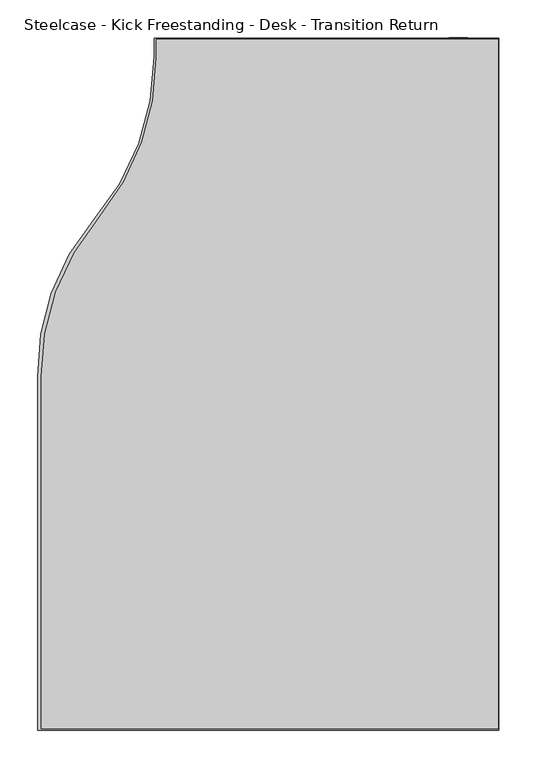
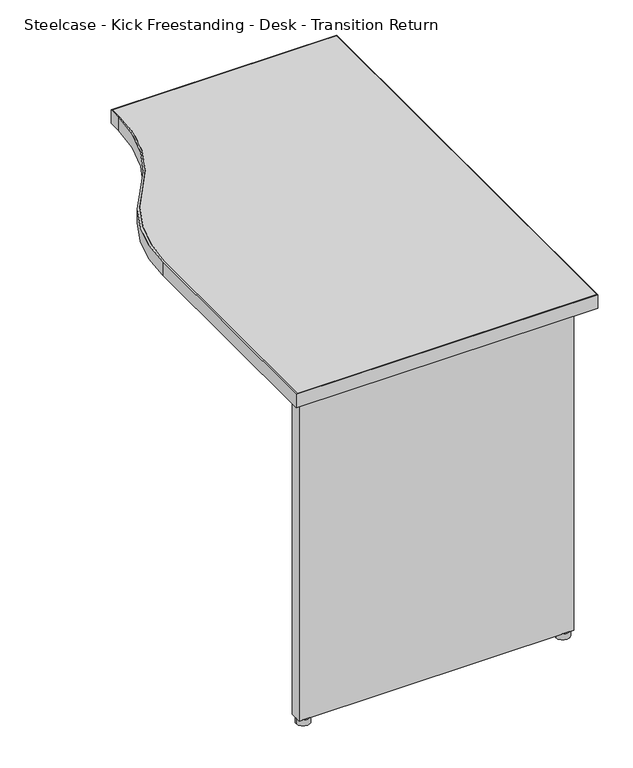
"""IFC4 building model written with IfcOpenShell, lengths in millimetres: furniture geometry, Steelcase - Kick Freestanding - Desk - Transition Return : 18D x 36W - Right - Half Panel."""

from ifc_helpers import new_model, si_unit, point, frame, frame_2d, origin, origin_with_axes, place, context, project, spatial, polyline, circle_curve, trimmed, segment, composite_curve, outline, extrude, source, transform, mapped, element, save


def steelcase_kick_freestanding_desk_transition_return_512f66e3(model_context):
    return source(origin(), model_context, "Body", "SweptSolid", [
        extrude(outline(composite_curve([segment(polyline([(1707.9294594, -546.8145152), (2163.8594425, -546.8145152), (2163.8594425, -1461.2145152), (1554.2594425, -1461.2145152), (1554.2594425, -994.1085152)]), True, "CONTINUOUS"), segment(trimmed(circle_curve(frame_2d((1864.0239413, -987.7058619)), 309.8306613), [point((1554.2594425, -994.1085152))], [point((1628.457587, -786.4509703))], False, "CARTESIAN"), True, "CONTINUOUS"), segment(trimmed(circle_curve(frame_2d((1376.3728371, -571.0836731)), 331.5566223), [point((1628.457587, -786.4509703))], [point((1707.9294594, -571.0836731))], True, "CARTESIAN"), True, "CONTINUOUS"), segment(polyline([(1707.9294594, -571.0836731), (1707.9294594, -546.8145152)]), True, "CONTINUOUS")], self_intersect=False), holes=[composite_curve([segment(polyline([(1710.9012257, -547.8051152), (1710.9012257, -572.1320079)]), True, "CONTINUOUS"), segment(trimmed(circle_curve(frame_2d((1386.0725345, -574.5942763)), 324.8380233), [point((1710.9012257, -572.1320079))], [point((1635.1600947, -783.1011797))], False, "CARTESIAN"), True, "CONTINUOUS"), segment(trimmed(circle_curve(frame_2d((1887.2347336, -994.1085152)), 328.7335079), [point((1635.1600947, -783.1011797))], [point((1558.5012257, -994.1085152))], True, "CARTESIAN"), True, "CONTINUOUS"), segment(polyline([(1558.5012257, -994.1085152), (1558.5012257, -1459.4619332), (2162.8688425, -1459.4619332), (2162.8688425, -547.8051152), (1710.9012257, -547.8051152)]), True, "CONTINUOUS")], self_intersect=False)]), frame((0.0, 0.0, 694.944), z_axis=(0.0, 0.0, 1.0), x_axis=(1.0, 0.0, 0.0)), (0.0, 0.0, 1.0), 28.956),
        extrude(outline(composite_curve([segment(polyline([(2162.8688425, -547.8051152), (2162.8688425, -1459.4619332), (1558.5012257, -1459.4619332), (1558.5012257, -994.1085152)]), True, "CONTINUOUS"), segment(trimmed(circle_curve(frame_2d((1887.2347336, -994.1085152)), 328.7335079), [point((1558.5012257, -994.1085152))], [point((1635.1600947, -783.1011797))], False, "CARTESIAN"), True, "CONTINUOUS"), segment(trimmed(circle_curve(frame_2d((1386.0725345, -574.5942763)), 324.8380233), [point((1635.1600947, -783.1011797))], [point((1710.9012257, -572.1320079))], True, "CARTESIAN"), True, "CONTINUOUS"), segment(polyline([(1710.9012257, -572.1320079), (1710.9012257, -547.8051152), (2162.8688425, -547.8051152)]), True, "CONTINUOUS")], self_intersect=False)), frame((0.0, 0.0, 694.944), z_axis=(0.0, 0.0, 1.0), x_axis=(1.0, 0.0, 0.0)), (0.0, 0.0, 1.0), 28.956),
        extrude(outline(composite_curve([segment(trimmed(circle_curve(frame_2d((2107.4714425, -1435.9669041)), 13.97), [point((2121.4414425, -1435.9669041))], [point((2093.5014425, -1435.9669041))], False, "CARTESIAN"), True, "CONTINUOUS"), segment(trimmed(circle_curve(frame_2d((2107.4714425, -1435.9669041)), 13.97), [point((2093.5014425, -1435.9669041))], [point((2121.4414425, -1435.9669041))], False, "CARTESIAN"), True, "CONTINUOUS")], self_intersect=False)), origin_with_axes(), (0.0, 0.0, 1.0), 12.7),
        extrude(outline(composite_curve([segment(trimmed(circle_curve(frame_2d((1582.4534425, -1435.9669041)), 13.97), [point((1596.4234425, -1435.9669041))], [point((1568.4834425, -1435.9669041))], False, "CARTESIAN"), True, "CONTINUOUS"), segment(trimmed(circle_curve(frame_2d((1582.4534425, -1435.9669041)), 13.97), [point((1568.4834425, -1435.9669041))], [point((1596.4234425, -1435.9669041))], False, "CARTESIAN"), True, "CONTINUOUS")], self_intersect=False)), origin_with_axes(), (0.0, 0.0, 1.0), 12.7),
        extrude(outline(polyline([(2122.7114425, -1423.2669041), (2122.7114425, -1447.7525152), (1568.2294473, -1447.7525152), (1568.2294473, -1423.2669041), (1691.2670317, -1423.2669041), (1691.2670317, -1445.6951136), (1790.9874347, -1445.6951136), (1790.9874347, -1423.2669041), (1899.7248382, -1423.2669041), (1899.7248382, -1445.6951136), (1999.4452412, -1445.6951136), (1999.4452412, -1423.2669041), (2122.7114425, -1423.2669041)])), frame((0.0, 0.0, 12.7), z_axis=(0.0, 0.0, 1.0), x_axis=(1.0, 0.0, 0.0)), (0.0, 0.0, 1.0), 682.244),
        extrude(outline(polyline([(2097.3114424, -546.0525152), (2122.7114425, -546.0525152), (2122.7114425, -1423.2669041), (2097.3114424, -1423.2669041), (2097.3114424, -546.0525152)])), frame((0.0, 0.0, 390.144), z_axis=(0.0, 0.0, 1.0), x_axis=(1.0, 0.0, 0.0)), (0.0, 0.0, 1.0), 304.8),
    ])


if __name__ == "__main__":
    model = new_model("IFC4")
    model_context = context("Model", 3, world=origin())
    ifc_project = project(units=[si_unit("LENGTHUNIT", "METRE", prefix="MILLI")], contexts=[model_context])
    site = spatial("IfcSite", under=ifc_project)
    building = spatial("IfcBuilding", under=site)
    placement = place(None, origin())
    steelcase_kick_freestanding_desk_transition_return_shape = steelcase_kick_freestanding_desk_transition_return_512f66e3(model_context)
    element("IfcFurniture", 1, ObjectType="Steelcase - Kick Freestanding - Desk - Transition Return : 18D x 36W - Right - Half Panel", at=placement, inside=building, context=model_context, shape_type="MappedRepresentation", body=[
        mapped(steelcase_kick_freestanding_desk_transition_return_shape, transform((0.0, 0.0, 0.0), x_axis=(1.0, 0.0, 0.0), y_axis=(0.0, 1.0, 0.0), z_axis=(0.0, 0.0, 1.0))),
    ])
    save(model, "model.ifc")
